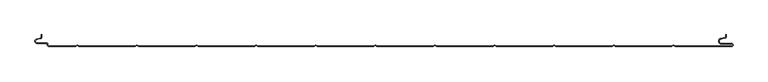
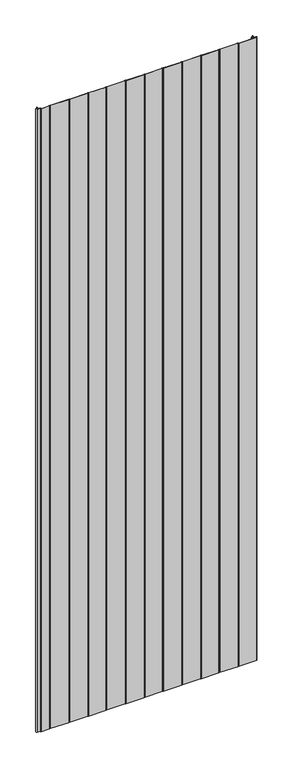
"""IFC4 building model written with IfcOpenShell, lengths in millimetres: plate geometry, PM1_Curtain-Panel_Perfil-Frigorífico : ACH_PM1_Panel-Acústico-Sectorización_80M."""

from ifc_helpers import new_model, si_unit, frame, origin, place, context, project, spatial, polyline, circle_curve, source, transform, mapped, element, save
from ifc_brep_helpers import plane_surface, cylinder_surface, revolved_surface, advanced_brep


def plate_b8cf29e3(model_context):
    return source(origin(), model_context, "Body", "AdvancedBrep", [
        advanced_brep(
        [(-575.0, -64.121443, 3500.0), (-576.5500978, -66.0701831, 3500.0), (-582.7098239, -67.492268, 3500.0), (-581.9, -74.6, 3500.0), (-566.4, -74.6, 3500.0), (-564.4, -76.6, 3500.0), (-564.4, -78.0, 3500.0), (-562.4, -80.0, 3500.0), (-517.0999995, -80.0, 3500.0), (-514.4, -78.4411545, 3500.0), (-511.7000005, -80.0, 3500.0), (-417.0999995, -80.0, 3500.0), (-414.4, -78.4411545, 3500.0), (-411.7000005, -80.0, 3500.0), (-317.0999995, -80.0, 3500.0), (-314.4, -78.4411545, 3500.0), (-311.7000005, -80.0, 3500.0), (-217.0999995, -80.0, 3500.0), (-214.4, -78.4411545, 3500.0), (-211.7000005, -80.0, 3500.0), (-117.0999995, -80.0, 3500.0), (-114.4, -78.4411545, 3500.0), (-111.7000005, -80.0, 3500.0), (-17.0999995, -80.0, 3500.0), (-14.4, -78.4411545, 3500.0), (-11.7000005, -80.0, 3500.0), (82.9000005, -80.0, 3500.0), (85.6, -78.4411545, 3500.0), (88.2999995, -80.0, 3500.0), (182.9000005, -80.0, 3500.0), (185.6, -78.4411545, 3500.0), (188.2999995, -80.0, 3500.0), (282.9000005, -80.0, 3500.0), (285.6, -78.4411545, 3500.0), (288.2999995, -80.0, 3500.0), (382.9000005, -80.0, 3500.0), (385.6, -78.4411545, 3500.0), (388.2999995, -80.0, 3500.0), (482.9000005, -80.0, 3500.0), (485.6, -78.4411545, 3500.0), (488.2999995, -80.0, 3500.0), (583.1, -80.0, 3500.0), (585.6, -77.5, 3500.0), (583.1, -75.0, 3500.0), (566.1, -75.0, 3500.0), (565.405407, -67.060769, 3500.0), (571.8514855, -65.9241509, 3500.0), (574.0, -63.3636508, 3500.0), (574.0, -60.0, 3500.0), (573.2, -60.0, 3500.0), (573.2, -63.3636508, 3500.0), (571.7125669, -65.1363047, 3500.0), (565.2664884, -66.2729228, 3500.0), (566.1, -75.8, 3500.0), (583.1, -75.8, 3500.0), (583.1, -79.2, 3500.0), (488.5143588, -79.2, 3500.0), (485.6, -77.517394, 3500.0), (482.6856412, -79.2, 3500.0), (388.5143588, -79.2, 3500.0), (385.6, -77.517394, 3500.0), (382.6856412, -79.2, 3500.0), (288.5143588, -79.2, 3500.0), (285.6, -77.517394, 3500.0), (282.6856412, -79.2, 3500.0), (188.5143588, -79.2, 3500.0), (185.6, -77.517394, 3500.0), (182.6856412, -79.2, 3500.0), (88.5143588, -79.2, 3500.0), (85.6, -77.517394, 3500.0), (82.6856412, -79.2, 3500.0), (-11.4856412, -79.2, 3500.0), (-14.4, -77.517394, 3500.0), (-17.3143588, -79.2, 3500.0), (-111.4856412, -79.2, 3500.0), (-114.4, -77.517394, 3500.0), (-117.3143588, -79.2, 3500.0), (-211.4856412, -79.2, 3500.0), (-214.4, -77.517394, 3500.0), (-217.3143588, -79.2, 3500.0), (-311.4856412, -79.2, 3500.0), (-314.4, -77.517394, 3500.0), (-317.3143588, -79.2, 3500.0), (-411.4856412, -79.2, 3500.0), (-414.4, -77.517394, 3500.0), (-417.3143588, -79.2, 3500.0), (-511.4856412, -79.2, 3500.0), (-514.4, -77.517394, 3500.0), (-517.3143588, -79.2, 3500.0), (-562.4, -79.2, 3500.0), (-563.6, -78.0, 3500.0), (-563.6, -76.6, 3500.0), (-566.4, -73.8, 3500.0), (-581.9, -73.8, 3500.0), (-582.529863, -68.2717638, 3500.0), (-576.370137, -66.849679, 3500.0), (-574.2, -64.121443, 3500.0), (-574.2, -60.0, 3500.0), (-575.0, -60.0, 3500.0), (-575.0, -64.121443, 0.0), (-575.0, -60.0, 0.0), (-574.2, -60.0, 0.0), (-574.2, -64.121443, 0.0), (-576.370137, -66.8496792, 0.0), (-582.529863, -68.271764, 0.0), (-581.9, -73.8, 0.0), (-566.4, -73.8, 0.0), (-563.6, -76.6, 0.0), (-563.6, -78.0, 0.0), (-562.4, -79.2, 0.0), (-517.3143588, -79.2, 0.0), (-514.4, -77.517394, 0.0), (-511.4856412, -79.2, 0.0), (-417.3143588, -79.2, 0.0), (-414.4, -77.517394, 0.0), (-411.4856412, -79.2, 0.0), (-317.3143588, -79.2, 0.0), (-314.4, -77.517394, 0.0), (-311.4856412, -79.2, 0.0), (-217.3143588, -79.2, 0.0), (-214.4, -77.517394, 0.0), (-211.4856412, -79.2, 0.0), (-117.3143588, -79.2, 0.0), (-114.4, -77.517394, 0.0), (-111.4856412, -79.2, 0.0), (-17.3143588, -79.2, 0.0), (-14.4, -77.517394, 0.0), (-11.4856412, -79.2, 0.0), (82.6856412, -79.2, 0.0), (85.6, -77.517394, 0.0), (88.5143588, -79.2, 0.0), (182.6856412, -79.2, 0.0), (185.6, -77.517394, 0.0), (188.5143588, -79.2, 0.0), (282.6856412, -79.2, 0.0), (285.6, -77.517394, 0.0), (288.5143588, -79.2, 0.0), (382.6856412, -79.2, 0.0), (385.6, -77.517394, 0.0), (388.5143588, -79.2, 0.0), (482.6856412, -79.2, 0.0), (485.6, -77.517394, 0.0), (488.5143588, -79.2, 0.0), (583.1, -79.2, 0.0), (583.1, -75.8, 0.0), (566.1, -75.8, 0.0), (565.2664884, -66.2729229, 0.0), (571.7125669, -65.1363047, 0.0), (573.2, -63.3636508, 0.0), (573.2, -60.0, 0.0), (574.0, -60.0, 0.0), (574.0, -63.3636508, 0.0), (571.8514855, -65.9241509, 0.0), (565.405407, -67.060769, 0.0), (566.1, -75.0, 0.0), (583.1, -75.0, 0.0), (585.6, -77.5, 0.0), (583.1, -80.0, 0.0), (488.2999995, -80.0, 0.0), (485.6, -78.4411545, 0.0), (482.9000005, -80.0, 0.0), (388.2999995, -80.0, 0.0), (385.6, -78.4411545, 0.0), (382.9000005, -80.0, 0.0), (288.2999995, -80.0, 0.0), (285.6, -78.4411545, 0.0), (282.9000005, -80.0, 0.0), (188.2999995, -80.0, 0.0), (185.6, -78.4411545, 0.0), (182.9000005, -80.0, 0.0), (88.2999995, -80.0, 0.0), (85.6, -78.4411545, 0.0), (82.9000005, -80.0, 0.0), (-11.7000005, -80.0, 0.0), (-14.4, -78.4411545, 0.0), (-17.0999995, -80.0, 0.0), (-111.7000005, -80.0, 0.0), (-114.4, -78.4411545, 0.0), (-117.0999995, -80.0, 0.0), (-211.7000005, -80.0, 0.0), (-214.4, -78.4411545, 0.0), (-217.0999995, -80.0, 0.0), (-311.7000005, -80.0, 0.0), (-314.4, -78.4411545, 0.0), (-317.0999995, -80.0, 0.0), (-411.7000005, -80.0, 0.0), (-414.4, -78.4411545, 0.0), (-417.0999995, -80.0, 0.0), (-511.7000005, -80.0, 0.0), (-514.4, -78.4411545, 0.0), (-517.0999995, -80.0, 0.0), (-562.4, -80.0, 0.0), (-564.4, -78.0, 0.0), (-564.4, -76.6, 0.0), (-566.4, -74.6, 0.0), (-581.9, -74.6, 0.0), (-582.7098239, -67.4922678, 0.0), (-576.5500979, -66.070183, 0.0)],
        [
            (0, 1, circle_curve(frame((-577.0, -64.121443, 3500.0), z_axis=(0.0, 0.0, -1.0), x_axis=(1.0, 0.0, 0.0)), 2.0)),
            (1, 2),
            (2, 3, circle_curve(frame((-581.9, -71.0, 3500.0), z_axis=(0.0, 0.0, 1.0), x_axis=(1.0, 0.0, 0.0)), 3.6)),
            (3, 4),
            (4, 5, circle_curve(frame((-566.4, -76.6, 3500.0), z_axis=(0.0, 0.0, -1.0), x_axis=(1.0, 0.0, 0.0)), 2.0)),
            (5, 6),
            (6, 7, circle_curve(frame((-562.4, -78.0, 3500.0), z_axis=(0.0, 0.0, 1.0), x_axis=(1.0, 0.0, 0.0)), 2.0)),
            (7, 8),
            (8, 9),
            (9, 10),
            (10, 11),
            (11, 12),
            (12, 13),
            (13, 14),
            (14, 15),
            (15, 16),
            (16, 17),
            (17, 18),
            (18, 19),
            (19, 20),
            (20, 21),
            (21, 22),
            (22, 23),
            (23, 24),
            (24, 25),
            (25, 26),
            (26, 27),
            (27, 28),
            (28, 29),
            (29, 30),
            (30, 31),
            (31, 32),
            (32, 33),
            (33, 34),
            (34, 35),
            (35, 36),
            (36, 37),
            (37, 38),
            (38, 39),
            (39, 40),
            (40, 41),
            (41, 42, circle_curve(frame((583.1, -77.5, 3500.0), z_axis=(0.0, 0.0, 1.0), x_axis=(1.0, 0.0, 0.0)), 2.5)),
            (42, 43, circle_curve(frame((583.1, -77.5, 3500.0), z_axis=(0.0, 0.0, 1.0), x_axis=(1.0, 0.0, 0.0)), 2.5)),
            (43, 44),
            (44, 45, circle_curve(frame((566.1, -71.0, 3500.0), z_axis=(0.0, 0.0, -1.0), x_axis=(1.0, 0.0, 0.0)), 4.0)),
            (45, 46),
            (46, 47, circle_curve(frame((571.4, -63.3636508, 3500.0), z_axis=(0.0, 0.0, 1.0), x_axis=(1.0, 0.0, 0.0)), 2.6)),
            (47, 48),
            (48, 49),
            (49, 50),
            (50, 51, circle_curve(frame((571.4, -63.3636508, 3500.0), z_axis=(0.0, 0.0, -1.0), x_axis=(1.0, 0.0, 0.0)), 1.8)),
            (51, 52),
            (52, 53, circle_curve(frame((566.1, -71.0, 3500.0), z_axis=(0.0, 0.0, 1.0), x_axis=(1.0, 0.0, 0.0)), 4.8)),
            (53, 54),
            (54, 55, circle_curve(frame((583.1, -77.5, 3500.0), z_axis=(0.0, 0.0, -1.0), x_axis=(1.0, 0.0, 0.0)), 1.7)),
            (55, 56),
            (56, 57),
            (57, 58),
            (58, 59),
            (59, 60),
            (60, 61),
            (61, 62),
            (62, 63),
            (63, 64),
            (64, 65),
            (65, 66),
            (66, 67),
            (67, 68),
            (68, 69),
            (69, 70),
            (70, 71),
            (71, 72),
            (72, 73),
            (73, 74),
            (74, 75),
            (75, 76),
            (76, 77),
            (77, 78),
            (78, 79),
            (79, 80),
            (80, 81),
            (81, 82),
            (82, 83),
            (83, 84),
            (84, 85),
            (85, 86),
            (86, 87),
            (87, 88),
            (88, 89),
            (89, 90, circle_curve(frame((-562.4, -78.0, 3500.0), z_axis=(0.0, 0.0, -1.0), x_axis=(1.0, 0.0, 0.0)), 1.2)),
            (90, 91),
            (91, 92, circle_curve(frame((-566.4, -76.6, 3500.0), z_axis=(0.0, 0.0, 1.0), x_axis=(1.0, 0.0, 0.0)), 2.8)),
            (92, 93),
            (93, 94, circle_curve(frame((-581.9, -71.0, 3500.0), z_axis=(0.0, 0.0, -1.0), x_axis=(1.0, 0.0, 0.0)), 2.8)),
            (94, 95),
            (95, 96, circle_curve(frame((-577.0, -64.121443, 3500.0), z_axis=(0.0, 0.0, 1.0), x_axis=(1.0, 0.0, 0.0)), 2.8)),
            (96, 97),
            (97, 98),
            (98, 0),
            (99, 100),
            (100, 101),
            (101, 102),
            (102, 103, circle_curve(frame((-577.0, -64.121443, 0.0), z_axis=(0.0, 0.0, -1.0), x_axis=(1.0, 0.0, 0.0)), 2.8)),
            (103, 104),
            (104, 105, circle_curve(frame((-581.9, -71.0, 0.0), z_axis=(0.0, 0.0, 1.0), x_axis=(1.0, 0.0, 0.0)), 2.8)),
            (105, 106),
            (106, 107, circle_curve(frame((-566.4, -76.6, 0.0), z_axis=(0.0, 0.0, -1.0), x_axis=(1.0, 0.0, 0.0)), 2.8)),
            (107, 108),
            (108, 109, circle_curve(frame((-562.4, -78.0, 0.0), z_axis=(0.0, 0.0, 1.0), x_axis=(1.0, 0.0, 0.0)), 1.2)),
            (109, 110),
            (110, 111),
            (111, 112),
            (112, 113),
            (113, 114),
            (114, 115),
            (115, 116),
            (116, 117),
            (117, 118),
            (118, 119),
            (119, 120),
            (120, 121),
            (121, 122),
            (122, 123),
            (123, 124),
            (124, 125),
            (125, 126),
            (126, 127),
            (127, 128),
            (128, 129),
            (129, 130),
            (130, 131),
            (131, 132),
            (132, 133),
            (133, 134),
            (134, 135),
            (135, 136),
            (136, 137),
            (137, 138),
            (138, 139),
            (139, 140),
            (140, 141),
            (141, 142),
            (142, 143),
            (143, 144, circle_curve(frame((583.1, -77.5, 0.0), z_axis=(0.0, 0.0, 1.0), x_axis=(1.0, 0.0, 0.0)), 1.7)),
            (144, 145),
            (145, 146, circle_curve(frame((566.1, -71.0, 0.0), z_axis=(0.0, 0.0, -1.0), x_axis=(1.0, 0.0, 0.0)), 4.8)),
            (146, 147),
            (147, 148, circle_curve(frame((571.4, -63.3636508, 0.0), z_axis=(0.0, 0.0, 1.0), x_axis=(1.0, 0.0, 0.0)), 1.8)),
            (148, 149),
            (149, 150),
            (150, 151),
            (151, 152, circle_curve(frame((571.4, -63.3636508, 0.0), z_axis=(0.0, 0.0, -1.0), x_axis=(1.0, 0.0, 0.0)), 2.6)),
            (152, 153),
            (153, 154, circle_curve(frame((566.1, -71.0, 0.0), z_axis=(0.0, 0.0, 1.0), x_axis=(1.0, 0.0, 0.0)), 4.0)),
            (154, 155),
            (155, 156, circle_curve(frame((583.1, -77.5, 0.0), z_axis=(0.0, 0.0, -1.0), x_axis=(1.0, 0.0, 0.0)), 2.5)),
            (156, 157, circle_curve(frame((583.1, -77.5, 0.0), z_axis=(0.0, 0.0, -1.0), x_axis=(1.0, 0.0, 0.0)), 2.5)),
            (157, 158),
            (158, 159),
            (159, 160),
            (160, 161),
            (161, 162),
            (162, 163),
            (163, 164),
            (164, 165),
            (165, 166),
            (166, 167),
            (167, 168),
            (168, 169),
            (169, 170),
            (170, 171),
            (171, 172),
            (172, 173),
            (173, 174),
            (174, 175),
            (175, 176),
            (176, 177),
            (177, 178),
            (178, 179),
            (179, 180),
            (180, 181),
            (181, 182),
            (182, 183),
            (183, 184),
            (184, 185),
            (185, 186),
            (186, 187),
            (187, 188),
            (188, 189),
            (189, 190),
            (190, 191),
            (191, 192, circle_curve(frame((-562.4, -78.0, 0.0), z_axis=(0.0, 0.0, -1.0), x_axis=(1.0, 0.0, 0.0)), 2.0)),
            (192, 193),
            (193, 194, circle_curve(frame((-566.4, -76.6, 0.0), z_axis=(0.0, 0.0, 1.0), x_axis=(1.0, 0.0, 0.0)), 2.0)),
            (194, 195),
            (195, 196, circle_curve(frame((-581.9, -71.0, 0.0), z_axis=(0.0, 0.0, -1.0), x_axis=(1.0, 0.0, 0.0)), 3.6)),
            (196, 197),
            (197, 99, circle_curve(frame((-577.0, -64.121443, 0.0), z_axis=(0.0, 0.0, 1.0), x_axis=(1.0, 0.0, 0.0)), 2.0)),
            (0, 99),
            (197, 1),
            (196, 2),
            (195, 3),
            (194, 4),
            (193, 5),
            (192, 6),
            (191, 7),
            (190, 8),
            (189, 9),
            (188, 10),
            (187, 11),
            (186, 12),
            (185, 13),
            (184, 14),
            (183, 15),
            (182, 16),
            (181, 17),
            (180, 18),
            (179, 19),
            (178, 20),
            (177, 21),
            (176, 22),
            (175, 23),
            (174, 24),
            (173, 25),
            (172, 26),
            (171, 27),
            (170, 28),
            (169, 29),
            (168, 30),
            (167, 31),
            (166, 32),
            (165, 33),
            (164, 34),
            (163, 35),
            (162, 36),
            (161, 37),
            (160, 38),
            (159, 39),
            (158, 40),
            (157, 41),
            (155, 43),
            (154, 44),
            (153, 45),
            (152, 46),
            (151, 47),
            (150, 48),
            (149, 49),
            (148, 50),
            (147, 51),
            (146, 52),
            (145, 53),
            (144, 54),
            (143, 55),
            (142, 56),
            (141, 57),
            (140, 58),
            (139, 59),
            (138, 60),
            (137, 61),
            (136, 62),
            (135, 63),
            (134, 64),
            (133, 65),
            (132, 66),
            (131, 67),
            (130, 68),
            (129, 69),
            (128, 70),
            (127, 71),
            (126, 72),
            (125, 73),
            (124, 74),
            (123, 75),
            (122, 76),
            (121, 77),
            (120, 78),
            (119, 79),
            (118, 80),
            (117, 81),
            (116, 82),
            (115, 83),
            (114, 84),
            (113, 85),
            (112, 86),
            (111, 87),
            (110, 88),
            (109, 89),
            (108, 90),
            (107, 91),
            (106, 92),
            (105, 93),
            (104, 94),
            (103, 95),
            (102, 96),
            (101, 97),
            (100, 98),
        ],
        [
            plane_surface(frame((-575.0, -80.0, 3500.0), z_axis=(0.0, 0.0, 1.0), x_axis=(0.0, 1.0, 0.0))),
            plane_surface(frame((-575.0, -80.0, 0.0), z_axis=(0.0, 0.0, -1.0), x_axis=(0.0, 1.0, 0.0))),
            revolved_surface(polyline([(-575.0, -64.121443, 0.0), (-575.0, -64.121443, 3500.0)]), (-577.0, -64.121443, 3500.0), (0.0, 0.0, -1.0)),
            plane_surface(frame((-576.5500979, -66.070183, 3500.0), z_axis=(-0.22495108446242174, 0.9743700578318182, 0.0), x_axis=(0.0, 0.0, -1.0))),
            cylinder_surface(frame((-581.9, -71.0, 3500.0), z_axis=(0.0, 0.0, 1.0), x_axis=(1.0, 0.0, 0.0)), 3.6),
            plane_surface(frame((-581.9, -74.6, 3500.0), z_axis=(0.0, -1.0, 0.0), x_axis=(0.0, 0.0, -1.0))),
            revolved_surface(polyline([(-564.4, -76.6, 0.0), (-564.4, -76.6, 3500.0)]), (-566.4, -76.6, 3500.0), (0.0, 0.0, -1.0)),
            plane_surface(frame((-564.4, -76.6, 3500.0), z_axis=(-1.0, 0.0, 0.0), x_axis=(0.0, 0.0, -1.0))),
            cylinder_surface(frame((-562.4, -78.0, 3500.0), z_axis=(0.0, 0.0, 1.0), x_axis=(1.0, 0.0, 0.0)), 2.0),
            plane_surface(frame((-562.4, -80.0, 3500.0), z_axis=(0.0, -1.0, 0.0), x_axis=(0.0, 0.0, -1.0))),
            plane_surface(frame((-517.0999995, -80.0, 3500.0), z_axis=(0.5000000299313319, -0.8660253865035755, 0.0), x_axis=(0.0, 0.0, -1.0))),
            plane_surface(frame((-514.4, -78.4411545, 3500.0), z_axis=(-0.5000000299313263, -0.8660253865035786, 0.0), x_axis=(0.0, 0.0, -1.0))),
            plane_surface(frame((-511.7000005, -80.0, 3500.0), z_axis=(0.0, -1.0, 0.0), x_axis=(0.0, 0.0, -1.0))),
            plane_surface(frame((-417.0999995, -80.0, 3500.0), z_axis=(0.5000000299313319, -0.8660253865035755, 0.0), x_axis=(0.0, 0.0, -1.0))),
            plane_surface(frame((-414.4, -78.4411545, 3500.0), z_axis=(-0.5000000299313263, -0.8660253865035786, 0.0), x_axis=(0.0, 0.0, -1.0))),
            plane_surface(frame((-411.7000005, -80.0, 3500.0), z_axis=(0.0, -1.0, 0.0), x_axis=(0.0, 0.0, -1.0))),
            plane_surface(frame((-317.0999995, -80.0, 3500.0), z_axis=(0.5000000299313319, -0.8660253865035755, 0.0), x_axis=(0.0, 0.0, -1.0))),
            plane_surface(frame((-314.4, -78.4411545, 3500.0), z_axis=(-0.5000000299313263, -0.8660253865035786, 0.0), x_axis=(0.0, 0.0, -1.0))),
            plane_surface(frame((-311.7000005, -80.0, 3500.0), z_axis=(0.0, -1.0, 0.0), x_axis=(0.0, 0.0, -1.0))),
            plane_surface(frame((-217.0999995, -80.0, 3500.0), z_axis=(0.5000000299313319, -0.8660253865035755, 0.0), x_axis=(0.0, 0.0, -1.0))),
            plane_surface(frame((-214.4, -78.4411545, 3500.0), z_axis=(-0.5000000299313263, -0.8660253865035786, 0.0), x_axis=(0.0, 0.0, -1.0))),
            plane_surface(frame((-211.7000005, -80.0, 3500.0), z_axis=(0.0, -1.0, 0.0), x_axis=(0.0, 0.0, -1.0))),
            plane_surface(frame((-117.0999995, -80.0, 3500.0), z_axis=(0.5000000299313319, -0.8660253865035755, 0.0), x_axis=(0.0, 0.0, -1.0))),
            plane_surface(frame((-114.4, -78.4411545, 3500.0), z_axis=(-0.5000000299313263, -0.8660253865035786, 0.0), x_axis=(0.0, 0.0, -1.0))),
            plane_surface(frame((-111.7000005, -80.0, 3500.0), z_axis=(0.0, -1.0, 0.0), x_axis=(0.0, 0.0, -1.0))),
            plane_surface(frame((-17.0999995, -80.0, 3500.0), z_axis=(0.5000000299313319, -0.8660253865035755, 0.0), x_axis=(0.0, 0.0, -1.0))),
            plane_surface(frame((-14.4, -78.4411545, 3500.0), z_axis=(-0.5000000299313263, -0.8660253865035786, 0.0), x_axis=(0.0, 0.0, -1.0))),
            plane_surface(frame((-11.7000005, -80.0, 3500.0), z_axis=(0.0, -1.0, 0.0), x_axis=(0.0, 0.0, -1.0))),
            plane_surface(frame((82.9000005, -80.0, 3500.0), z_axis=(0.5000000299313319, -0.8660253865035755, 0.0), x_axis=(0.0, 0.0, -1.0))),
            plane_surface(frame((85.6, -78.4411545, 3500.0), z_axis=(-0.5000000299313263, -0.8660253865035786, 0.0), x_axis=(0.0, 0.0, -1.0))),
            plane_surface(frame((88.2999995, -80.0, 3500.0), z_axis=(0.0, -1.0, 0.0), x_axis=(0.0, 0.0, -1.0))),
            plane_surface(frame((182.9000005, -80.0, 3500.0), z_axis=(0.5000000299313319, -0.8660253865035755, 0.0), x_axis=(0.0, 0.0, -1.0))),
            plane_surface(frame((185.6, -78.4411545, 3500.0), z_axis=(-0.5000000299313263, -0.8660253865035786, 0.0), x_axis=(0.0, 0.0, -1.0))),
            plane_surface(frame((188.2999995, -80.0, 3500.0), z_axis=(0.0, -1.0, 0.0), x_axis=(0.0, 0.0, -1.0))),
            plane_surface(frame((282.9000005, -80.0, 3500.0), z_axis=(0.5000000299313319, -0.8660253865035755, 0.0), x_axis=(0.0, 0.0, -1.0))),
            plane_surface(frame((285.6, -78.4411545, 3500.0), z_axis=(-0.5000000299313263, -0.8660253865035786, 0.0), x_axis=(0.0, 0.0, -1.0))),
            plane_surface(frame((288.2999995, -80.0, 3500.0), z_axis=(0.0, -1.0, 0.0), x_axis=(0.0, 0.0, -1.0))),
            plane_surface(frame((382.9000005, -80.0, 3500.0), z_axis=(0.5000000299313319, -0.8660253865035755, 0.0), x_axis=(0.0, 0.0, -1.0))),
            plane_surface(frame((385.6, -78.4411545, 3500.0), z_axis=(-0.5000000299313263, -0.8660253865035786, 0.0), x_axis=(0.0, 0.0, -1.0))),
            plane_surface(frame((388.2999995, -80.0, 3500.0), z_axis=(0.0, -1.0, 0.0), x_axis=(0.0, 0.0, -1.0))),
            plane_surface(frame((482.9000005, -80.0, 3500.0), z_axis=(0.5000000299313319, -0.8660253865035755, 0.0), x_axis=(0.0, 0.0, -1.0))),
            plane_surface(frame((485.6, -78.4411545, 3500.0), z_axis=(-0.5000000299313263, -0.8660253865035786, 0.0), x_axis=(0.0, 0.0, -1.0))),
            plane_surface(frame((535.6, -80.0, 3500.0), z_axis=(0.0, -1.0, 0.0), x_axis=(0.0, 0.0, -1.0))),
            cylinder_surface(frame((583.1, -77.5, 3500.0), z_axis=(0.0, 0.0, 1.0), x_axis=(1.0, 0.0, 0.0)), 2.5),
            plane_surface(frame((583.1, -75.0, 3500.0), z_axis=(0.0, 1.0, 0.0), x_axis=(0.0, 0.0, -1.0))),
            revolved_surface(polyline([(570.1, -71.0, 0.0), (570.1, -71.0, 3500.0)]), (566.1, -71.0, 3500.0), (0.0, 0.0, -1.0)),
            plane_surface(frame((565.405407, -67.060769, 3500.0), z_axis=(0.17364825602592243, -0.9848077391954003, 0.0), x_axis=(0.0, 0.0, -1.0))),
            cylinder_surface(frame((571.4, -63.3636508, 3500.0), z_axis=(0.0, 0.0, 1.0), x_axis=(1.0, 0.0, 0.0)), 2.6),
            plane_surface(frame((574.0, -63.3636508, 3500.0), z_axis=(1.0, 0.0, 0.0), x_axis=(0.0, 0.0, -1.0))),
            plane_surface(frame((574.0, -60.0, 3500.0), z_axis=(0.0, 1.0, 0.0), x_axis=(0.0, 0.0, -1.0))),
            plane_surface(frame((573.2, -60.0, 3500.0), z_axis=(-1.0, 0.0, 0.0), x_axis=(0.0, 0.0, -1.0))),
            revolved_surface(polyline([(573.1999999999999, -63.3636508, 0.0), (573.1999999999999, -63.3636508, 3500.0)]), (571.4, -63.3636508, 3500.0), (0.0, 0.0, -1.0)),
            plane_surface(frame((571.7125669, -65.1363047, 3500.0), z_axis=(-0.17364825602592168, 0.9848077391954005, 0.0), x_axis=(0.0, 0.0, -1.0))),
            cylinder_surface(frame((566.1, -71.0, 3500.0), z_axis=(0.0, 0.0, 1.0), x_axis=(1.0, 0.0, 0.0)), 4.8),
            plane_surface(frame((566.1, -75.8, 3500.0), z_axis=(0.0, -1.0, 0.0), x_axis=(0.0, 0.0, -1.0))),
            revolved_surface(polyline([(584.8000000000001, -77.5, 0.0), (584.8000000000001, -77.5, 3500.0)]), (583.1, -77.5, 3500.0), (0.0, 0.0, -1.0)),
            plane_surface(frame((535.6, -79.2, 3500.0), z_axis=(0.0, 1.0, 0.0), x_axis=(0.0, 0.0, -1.0))),
            plane_surface(frame((488.5143588, -79.2, 3500.0), z_axis=(0.5000000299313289, 0.8660253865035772, 0.0), x_axis=(0.0, 0.0, -1.0))),
            plane_surface(frame((485.6, -77.517394, 3500.0), z_axis=(-0.5000000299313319, 0.8660253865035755, 0.0), x_axis=(0.0, 0.0, -1.0))),
            plane_surface(frame((482.6856412, -79.2, 3500.0), z_axis=(0.0, 1.0, 0.0), x_axis=(0.0, 0.0, -1.0))),
            plane_surface(frame((388.5143588, -79.2, 3500.0), z_axis=(0.5000000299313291, 0.8660253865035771, 0.0), x_axis=(0.0, 0.0, -1.0))),
            plane_surface(frame((385.6, -77.517394, 3500.0), z_axis=(-0.500000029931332, 0.8660253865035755, 0.0), x_axis=(0.0, 0.0, -1.0))),
            plane_surface(frame((382.6856412, -79.2, 3500.0), z_axis=(0.0, 1.0, 0.0), x_axis=(0.0, 0.0, -1.0))),
            plane_surface(frame((288.5143588, -79.2, 3500.0), z_axis=(0.5000000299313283, 0.8660253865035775, 0.0), x_axis=(0.0, 0.0, -1.0))),
            plane_surface(frame((285.6, -77.517394, 3500.0), z_axis=(-0.5000000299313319, 0.8660253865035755, 0.0), x_axis=(0.0, 0.0, -1.0))),
            plane_surface(frame((282.6856412, -79.2, 3500.0), z_axis=(0.0, 1.0, 0.0), x_axis=(0.0, 0.0, -1.0))),
            plane_surface(frame((188.5143588, -79.2, 3500.0), z_axis=(0.5000000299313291, 0.8660253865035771, 0.0), x_axis=(0.0, 0.0, -1.0))),
            plane_surface(frame((185.6, -77.517394, 3500.0), z_axis=(-0.5000000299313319, 0.8660253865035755, 0.0), x_axis=(0.0, 0.0, -1.0))),
            plane_surface(frame((182.6856412, -79.2, 3500.0), z_axis=(0.0, 1.0, 0.0), x_axis=(0.0, 0.0, -1.0))),
            plane_surface(frame((88.5143588, -79.2, 3500.0), z_axis=(0.5000000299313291, 0.8660253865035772, 0.0), x_axis=(0.0, 0.0, -1.0))),
            plane_surface(frame((85.6, -77.517394, 3500.0), z_axis=(-0.5000000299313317, 0.8660253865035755, 0.0), x_axis=(0.0, 0.0, -1.0))),
            plane_surface(frame((82.6856412, -79.2, 3500.0), z_axis=(0.0, 1.0, 0.0), x_axis=(0.0, 0.0, -1.0))),
            plane_surface(frame((-11.4856412, -79.2, 3500.0), z_axis=(0.500000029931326, 0.8660253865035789, 0.0), x_axis=(0.0, 0.0, -1.0))),
            plane_surface(frame((-14.4, -77.517394, 3500.0), z_axis=(-0.500000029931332, 0.8660253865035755, 0.0), x_axis=(0.0, 0.0, -1.0))),
            plane_surface(frame((-17.3143588, -79.2, 3500.0), z_axis=(0.0, 1.0, 0.0), x_axis=(0.0, 0.0, -1.0))),
            plane_surface(frame((-111.4856412, -79.2, 3500.0), z_axis=(0.5000000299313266, 0.8660253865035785, 0.0), x_axis=(0.0, 0.0, -1.0))),
            plane_surface(frame((-114.4, -77.517394, 3500.0), z_axis=(-0.5000000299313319, 0.8660253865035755, 0.0), x_axis=(0.0, 0.0, -1.0))),
            plane_surface(frame((-117.3143588, -79.2, 3500.0), z_axis=(0.0, 1.0, 0.0), x_axis=(0.0, 0.0, -1.0))),
            plane_surface(frame((-211.4856412, -79.2, 3500.0), z_axis=(0.5000000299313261, 0.8660253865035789, 0.0), x_axis=(0.0, 0.0, -1.0))),
            plane_surface(frame((-214.4, -77.517394, 3500.0), z_axis=(-0.500000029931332, 0.8660253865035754, 0.0), x_axis=(0.0, 0.0, -1.0))),
            plane_surface(frame((-217.3143588, -79.2, 3500.0), z_axis=(0.0, 1.0, 0.0), x_axis=(0.0, 0.0, -1.0))),
            plane_surface(frame((-311.4856412, -79.2, 3500.0), z_axis=(0.5000000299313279, 0.8660253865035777, 0.0), x_axis=(0.0, 0.0, -1.0))),
            plane_surface(frame((-314.4, -77.517394, 3500.0), z_axis=(-0.5000000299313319, 0.8660253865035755, 0.0), x_axis=(0.0, 0.0, -1.0))),
            plane_surface(frame((-317.3143588, -79.2, 3500.0), z_axis=(0.0, 1.0, 0.0), x_axis=(0.0, 0.0, -1.0))),
            plane_surface(frame((-411.4856412, -79.2, 3500.0), z_axis=(0.5000000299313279, 0.8660253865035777, 0.0), x_axis=(0.0, 0.0, -1.0))),
            plane_surface(frame((-414.4, -77.517394, 3500.0), z_axis=(-0.5000000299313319, 0.8660253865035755, 0.0), x_axis=(0.0, 0.0, -1.0))),
            plane_surface(frame((-417.3143588, -79.2, 3500.0), z_axis=(0.0, 1.0, 0.0), x_axis=(0.0, 0.0, -1.0))),
            plane_surface(frame((-511.4856412, -79.2, 3500.0), z_axis=(0.5000000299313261, 0.8660253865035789, 0.0), x_axis=(0.0, 0.0, -1.0))),
            plane_surface(frame((-514.4, -77.517394, 3500.0), z_axis=(-0.5000000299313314, 0.8660253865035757, 0.0), x_axis=(0.0, 0.0, -1.0))),
            plane_surface(frame((-517.3143588, -79.2, 3500.0), z_axis=(0.0, 1.0, 0.0), x_axis=(0.0, 0.0, -1.0))),
            revolved_surface(polyline([(-561.1999999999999, -78.0, 0.0), (-561.1999999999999, -78.0, 3500.0)]), (-562.4, -78.0, 3500.0), (0.0, 0.0, -1.0)),
            plane_surface(frame((-563.6, -78.0, 3500.0), z_axis=(1.0, 0.0, 0.0), x_axis=(0.0, 0.0, -1.0))),
            cylinder_surface(frame((-566.4, -76.6, 3500.0), z_axis=(0.0, 0.0, 1.0), x_axis=(1.0, 0.0, 0.0)), 2.8),
            plane_surface(frame((-566.4, -73.8, 3500.0), z_axis=(0.0, 1.0, 0.0), x_axis=(0.0, 0.0, -1.0))),
            revolved_surface(polyline([(-579.1, -71.0, 0.0), (-579.1, -71.0, 3500.0)]), (-581.9, -71.0, 3500.0), (0.0, 0.0, -1.0)),
            plane_surface(frame((-582.529863, -68.271764, 3500.0), z_axis=(0.22495108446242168, -0.9743700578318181, 0.0), x_axis=(0.0, 0.0, -1.0))),
            cylinder_surface(frame((-577.0, -64.121443, 3500.0), z_axis=(0.0, 0.0, 1.0), x_axis=(1.0, 0.0, 0.0)), 2.8),
            plane_surface(frame((-574.2, -64.121443, 3500.0), z_axis=(1.0, 0.0, 0.0), x_axis=(0.0, 0.0, -1.0))),
            plane_surface(frame((-574.2, -60.0, 3500.0), z_axis=(0.0, 1.0, 0.0), x_axis=(0.0, 0.0, -1.0))),
            plane_surface(frame((-575.0, -60.0, 3500.0), z_axis=(-1.0, 0.0, 0.0), x_axis=(0.0, 0.0, -1.0))),
        ],
        [
            (0, [[1, 2, 3, 4, 5, 6, 7, 8, 9, 10, 11, 12, 13, 14, 15, 16, 17, 18, 19, 20, 21, 22, 23, 24, 25, 26, 27, 28, 29, 30, 31, 32, 33, 34, 35, 36, 37, 38, 39, 40, 41, 42, 43, 44, 45, 46, 47, 48, 49, 50, 51, 52, 53, 54, 55, 56, 57, 58, 59, 60, 61, 62, 63, 64, 65, 66, 67, 68, 69, 70, 71, 72, 73, 74, 75, 76, 77, 78, 79, 80, 81, 82, 83, 84, 85, 86, 87, 88, 89, 90, 91, 92, 93, 94, 95, 96, 97, 98, 99]]),
            (1, [[100, 101, 102, 103, 104, 105, 106, 107, 108, 109, 110, 111, 112, 113, 114, 115, 116, 117, 118, 119, 120, 121, 122, 123, 124, 125, 126, 127, 128, 129, 130, 131, 132, 133, 134, 135, 136, 137, 138, 139, 140, 141, 142, 143, 144, 145, 146, 147, 148, 149, 150, 151, 152, 153, 154, 155, 156, 157, 158, 159, 160, 161, 162, 163, 164, 165, 166, 167, 168, 169, 170, 171, 172, 173, 174, 175, 176, 177, 178, 179, 180, 181, 182, 183, 184, 185, 186, 187, 188, 189, 190, 191, 192, 193, 194, 195, 196, 197, 198]]),
            (2, [[-1, 199, -198, 200]]),
            (3, [[-2, -200, -197, 201]]),
            (4, [[-3, -201, -196, 202]]),
            (5, [[-4, -202, -195, 203]]),
            (6, [[-5, -203, -194, 204]]),
            (7, [[-6, -204, -193, 205]]),
            (8, [[-7, -205, -192, 206]]),
            (9, [[-8, -206, -191, 207]]),
            (10, [[-9, -207, -190, 208]]),
            (11, [[-10, -208, -189, 209]]),
            (12, [[-11, -209, -188, 210]]),
            (13, [[-12, -210, -187, 211]]),
            (14, [[-13, -211, -186, 212]]),
            (15, [[-14, -212, -185, 213]]),
            (16, [[-15, -213, -184, 214]]),
            (17, [[-16, -214, -183, 215]]),
            (18, [[-17, -215, -182, 216]]),
            (19, [[-18, -216, -181, 217]]),
            (20, [[-19, -217, -180, 218]]),
            (21, [[-20, -218, -179, 219]]),
            (22, [[-21, -219, -178, 220]]),
            (23, [[-22, -220, -177, 221]]),
            (24, [[-23, -221, -176, 222]]),
            (25, [[-24, -222, -175, 223]]),
            (26, [[-25, -223, -174, 224]]),
            (27, [[-26, -224, -173, 225]]),
            (28, [[-27, -225, -172, 226]]),
            (29, [[-28, -226, -171, 227]]),
            (30, [[-29, -227, -170, 228]]),
            (31, [[-30, -228, -169, 229]]),
            (32, [[-31, -229, -168, 230]]),
            (33, [[-32, -230, -167, 231]]),
            (34, [[-33, -231, -166, 232]]),
            (35, [[-34, -232, -165, 233]]),
            (36, [[-35, -233, -164, 234]]),
            (37, [[-36, -234, -163, 235]]),
            (38, [[-37, -235, -162, 236]]),
            (39, [[-38, -236, -161, 237]]),
            (40, [[-39, -237, -160, 238]]),
            (41, [[-40, -238, -159, 239]]),
            (42, [[-41, -239, -158, 240]]),
            (43, [[-240, -157, -156, 241, -43, -42]]),
            (44, [[-44, -241, -155, 242]]),
            (45, [[-45, -242, -154, 243]]),
            (46, [[-46, -243, -153, 244]]),
            (47, [[-47, -244, -152, 245]]),
            (48, [[-48, -245, -151, 246]]),
            (49, [[-49, -246, -150, 247]]),
            (50, [[-50, -247, -149, 248]]),
            (51, [[-51, -248, -148, 249]]),
            (52, [[-52, -249, -147, 250]]),
            (53, [[-53, -250, -146, 251]]),
            (54, [[-54, -251, -145, 252]]),
            (55, [[-55, -252, -144, 253]]),
            (56, [[-56, -253, -143, 254]]),
            (57, [[-57, -254, -142, 255]]),
            (58, [[-58, -255, -141, 256]]),
            (59, [[-59, -256, -140, 257]]),
            (60, [[-60, -257, -139, 258]]),
            (61, [[-61, -258, -138, 259]]),
            (62, [[-62, -259, -137, 260]]),
            (63, [[-63, -260, -136, 261]]),
            (64, [[-64, -261, -135, 262]]),
            (65, [[-65, -262, -134, 263]]),
            (66, [[-66, -263, -133, 264]]),
            (67, [[-67, -264, -132, 265]]),
            (68, [[-68, -265, -131, 266]]),
            (69, [[-69, -266, -130, 267]]),
            (70, [[-70, -267, -129, 268]]),
            (71, [[-71, -268, -128, 269]]),
            (72, [[-72, -269, -127, 270]]),
            (73, [[-73, -270, -126, 271]]),
            (74, [[-74, -271, -125, 272]]),
            (75, [[-75, -272, -124, 273]]),
            (76, [[-76, -273, -123, 274]]),
            (77, [[-77, -274, -122, 275]]),
            (78, [[-78, -275, -121, 276]]),
            (79, [[-79, -276, -120, 277]]),
            (80, [[-80, -277, -119, 278]]),
            (81, [[-81, -278, -118, 279]]),
            (82, [[-82, -279, -117, 280]]),
            (83, [[-83, -280, -116, 281]]),
            (84, [[-84, -281, -115, 282]]),
            (85, [[-85, -282, -114, 283]]),
            (86, [[-86, -283, -113, 284]]),
            (87, [[-87, -284, -112, 285]]),
            (88, [[-88, -285, -111, 286]]),
            (89, [[-89, -286, -110, 287]]),
            (90, [[-90, -287, -109, 288]]),
            (91, [[-91, -288, -108, 289]]),
            (92, [[-92, -289, -107, 290]]),
            (93, [[-93, -290, -106, 291]]),
            (94, [[-94, -291, -105, 292]]),
            (95, [[-95, -292, -104, 293]]),
            (96, [[-96, -293, -103, 294]]),
            (97, [[-97, -294, -102, 295]]),
            (98, [[-98, -295, -101, 296]]),
            (99, [[-99, -296, -100, -199]]),
        ],
    ),
    ])


if __name__ == "__main__":
    model = new_model("IFC4")
    model_context = context("Model", 3, world=origin())
    ifc_project = project(units=[si_unit("LENGTHUNIT", "METRE", prefix="MILLI")], contexts=[model_context])
    site = spatial("IfcSite", under=ifc_project)
    building = spatial("IfcBuilding", under=site)
    placement = place(None, origin())
    plate_shape = plate_b8cf29e3(model_context)
    element("IfcPlate", 1, ObjectType="PM1_Curtain-Panel_Perfil-Frigorífico : ACH_PM1_Panel-Acústico-Sectorización_80M", at=placement, inside=building, context=model_context, shape_type="MappedRepresentation", body=[
        mapped(plate_shape, transform((0.0, 0.0, 0.0), x_axis=(1.0, 0.0, 0.0), y_axis=(0.0, 1.0, 0.0), z_axis=(0.0, 0.0, 1.0))),
    ])
    save(model, "model.ifc")
